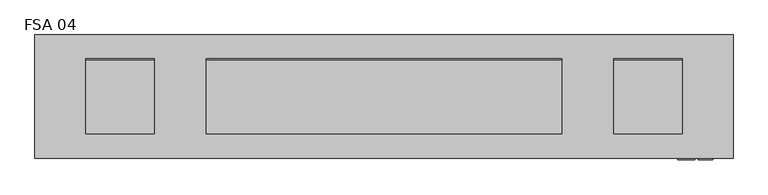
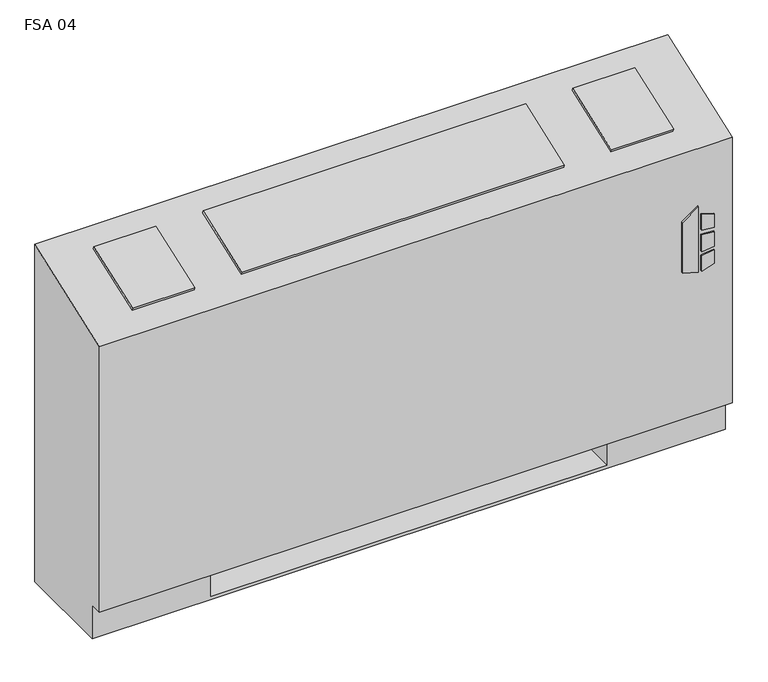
"""IFC4 building model written with IfcOpenShell, lengths in millimetres: proxy geometry, Vertical_Fan_Coil_Unit_-_FSA_-_IEC_-_4-Pipe_TS-FR_LH_2022 : FSA 04."""

import ifcopenshell
import ifcopenshell.guid

model = None  # the IFC model being written
_history = None  # IfcOwnerHistory: only IFC2X3 demands one
_inside = {}  # id of a spatial element -> (the spatial element, [elements in it])
_under = {}  # id of a project, library or spatial element -> (it, [spatial elements below it])
_declared = {}  # id of a project -> (the project, [libraries it declares])
_typed = {}  # id of a type object -> (the type object, [elements of that type])
_made_of = {}  # id of a material, layer set ... -> (it, [elements and type objects made of it])


def new_model(schema):
    """Start an empty IFC model of exactly this schema.

    Asked for "IFC4X3", IfcOpenShell would pick the latest addendum, in which some entities
    have other attributes; the version numbers below select the first issue.
    IFC2X3 requires an IfcOwnerHistory on every rooted entity: one is made here for all.
    """
    global model, _history
    if schema == "IFC4X3":
        model = ifcopenshell.file(schema_version=(4, 3, 0, 0))
    else:
        model = ifcopenshell.file(schema=schema)
    _inside.clear()
    _under.clear()
    _declared.clear()
    _typed.clear()
    _made_of.clear()
    _history = None
    if model.schema == "IFC2X3":
        org = make("IfcOrganization", Name="unknown")
        user = make(
            "IfcPersonAndOrganization",
            ThePerson=make("IfcPerson", FamilyName="unknown"),
            TheOrganization=org,
        )
        app = make(
            "IfcApplication",
            ApplicationDeveloper=org,
            Version="unknown",
            ApplicationFullName="unknown",
            ApplicationIdentifier="unknown",
        )
        _history = make(
            "IfcOwnerHistory",
            OwningUser=user,
            OwningApplication=app,
            ChangeAction="ADDED",
            CreationDate=0,
        )
    return model


def make(cls, **values):
    """One entity of the class cls with the attributes given. An attribute that is None is left unset."""
    return model.create_entity(
        cls, **{name: value for name, value in values.items() if value is not None}
    )


def rooted(cls, **values):
    """An entity with a GlobalId (a new one), such as an element, a storey or a relation."""
    return make(cls, GlobalId=ifcopenshell.guid.new(), OwnerHistory=_history, **values)


def si_unit(unit_type, name, prefix=None):
    """IfcSIUnit, for example si_unit("LENGTHUNIT", "METRE", prefix="MILLI")."""
    return make("IfcSIUnit", UnitType=unit_type, Prefix=prefix, Name=name)


def assignment(units):
    """IfcUnitAssignment: the units of a project."""
    return None if units is None else make("IfcUnitAssignment", Units=units)


def point(xyz):
    """IfcCartesianPoint."""
    return None if xyz is None else make("IfcCartesianPoint", Coordinates=xyz)


def direction(xyz):
    """IfcDirection."""
    return None if xyz is None else make("IfcDirection", DirectionRatios=xyz)


def frame(location, z_axis=None, x_axis=None):
    """IfcAxis2Placement3D, a coordinate frame: its origin and axes. An axis left out is left unset."""
    return make(
        "IfcAxis2Placement3D",
        Location=point(location),
        Axis=direction(z_axis),
        RefDirection=direction(x_axis),
    )


def frame_2d(location, x_axis=None):
    """IfcAxis2Placement2D, a coordinate frame in the plane: its origin and x axis."""
    return make(
        "IfcAxis2Placement2D", Location=point(location), RefDirection=direction(x_axis)
    )


def origin():
    """The frame at (0, 0, 0) with its axes left unset."""
    return frame((0.0, 0.0, 0.0))


def place(relative_to, where):
    """IfcLocalPlacement: puts the frame where relative to a parent placement (None: the world)."""
    return make(
        "IfcLocalPlacement", PlacementRelTo=relative_to, RelativePlacement=where
    )


def context(
    kind, dimensions, precision=None, world=None, true_north=None, identifier=None
):
    """IfcGeometricRepresentationContext, for example the 3D "Model" context."""
    return make(
        "IfcGeometricRepresentationContext",
        ContextIdentifier=identifier,
        ContextType=kind,
        CoordinateSpaceDimension=dimensions,
        Precision=precision,
        WorldCoordinateSystem=world,
        TrueNorth=true_north,
    )


def project(units=None, contexts=None):
    """IfcProject with its units and contexts."""
    return rooted(
        "IfcProject",
        Name="project",
        RepresentationContexts=contexts,
        UnitsInContext=assignment(units),
    )


def spatial(cls, under=None, at=None, **own):
    """A site, building, storey or space (cls), placed at a placement, below another one or the project."""
    s = rooted(cls, ObjectPlacement=at, **own)
    if under is not None:
        _under.setdefault(under.id(), (under, []))[1].append(s)
    return s


def polyline(points):
    """IfcPolyline through the points."""
    return make("IfcPolyline", Points=[point(p) for p in points])


def circle_curve(where, radius):
    """IfcCircle in the frame where."""
    return make("IfcCircle", Position=where, Radius=radius)


def trimmed(basis, trim1, trim2, sense, master):
    """IfcTrimmedCurve: the piece of a basis curve between two trims."""
    return make(
        "IfcTrimmedCurve",
        BasisCurve=basis,
        Trim1=trim1,
        Trim2=trim2,
        SenseAgreement=sense,
        MasterRepresentation=master,
    )


def segment(curve, same_sense, transition):
    """IfcCompositeCurveSegment."""
    return make(
        "IfcCompositeCurveSegment",
        Transition=transition,
        SameSense=same_sense,
        ParentCurve=curve,
    )


def composite_curve(segments, self_intersect=None):
    """IfcCompositeCurve: segments joined end to end."""
    return make("IfcCompositeCurve", Segments=segments, SelfIntersect=self_intersect)


def outline(outer, holes=None, kind="AREA"):
    """IfcArbitraryClosedProfileDef: a profile drawn as a closed curve; with holes, ...WithVoids."""
    if holes is None:
        return make("IfcArbitraryClosedProfileDef", ProfileType=kind, OuterCurve=outer)
    return make(
        "IfcArbitraryProfileDefWithVoids",
        ProfileType=kind,
        OuterCurve=outer,
        InnerCurves=holes,
    )


def extrude(swept, where, along, depth):
    """IfcExtrudedAreaSolid: the profile swept, set in the frame where, extruded along a direction by depth."""
    return make(
        "IfcExtrudedAreaSolid",
        SweptArea=swept,
        Position=where,
        ExtrudedDirection=direction(along),
        Depth=depth,
    )


def shape(context_of_items, identifier, shape_type, items):
    """IfcShapeRepresentation: the items that make up one representation, for example the "Body"."""
    return make(
        "IfcShapeRepresentation",
        ContextOfItems=context_of_items,
        RepresentationIdentifier=identifier,
        RepresentationType=shape_type,
        Items=items,
    )


def source(mapping_origin, context_of_items, identifier, shape_type, items):
    """IfcRepresentationMap: a shape defined once, which mapped items show again and again."""
    return make(
        "IfcRepresentationMap",
        MappingOrigin=mapping_origin,
        MappedRepresentation=shape(context_of_items, identifier, shape_type, items),
    )


def transform(
    local_origin,
    x_axis=None,
    y_axis=None,
    z_axis=None,
    scale=None,
    scale2=None,
    scale3=None,
    uniform=True,
):
    """IfcCartesianTransformationOperator3D, or its non-uniform kind. x_axis, y_axis, z_axis: its Axis1, 2, 3."""
    if uniform:
        return make(
            "IfcCartesianTransformationOperator3D",
            Axis1=direction(x_axis),
            Axis2=direction(y_axis),
            LocalOrigin=point(local_origin),
            Scale=scale,
            Axis3=direction(z_axis),
        )
    return make(
        "IfcCartesianTransformationOperator3DnonUniform",
        Axis1=direction(x_axis),
        Axis2=direction(y_axis),
        LocalOrigin=point(local_origin),
        Scale=scale,
        Axis3=direction(z_axis),
        Scale2=scale2,
        Scale3=scale3,
    )


def mapped(mapping_source, mapping_target):
    """IfcMappedItem: shows the shape of a source again, moved by a transform."""
    return make(
        "IfcMappedItem", MappingSource=mapping_source, MappingTarget=mapping_target
    )


def made_of(thing, what):
    """Note that an element or type object is made of a material, layer set ...; save() writes the relation."""
    if what is not None:
        _made_of.setdefault(what.id(), (what, []))[1].append(thing)
    return thing


def element(
    cls,
    number,
    at=None,
    inside=None,
    cuts=None,
    type_object=None,
    material=None,
    context=None,
    identifier="Body",
    shape_type=None,
    held_by="IfcProductDefinitionShape",
    body=None,
    shapes=None,
    **own,
):
    """One element of the class cls, such as IfcWall. Its Tag is "e" and its number.

    at: its placement. inside: the storey or other place that contains it. cuts: it is an
    opening in that element (IfcRelVoidsElement). A single representation is given by context,
    identifier, shape_type and body (its items); several are given by shapes. held_by: the class
    of the entity that holds the representations. save() writes the other relations.
    """
    e = rooted(cls, Tag="e%d" % number, ObjectPlacement=at, **own)
    if body is not None:
        shapes = [shape(context, identifier, shape_type, body)]
    if shapes is not None:
        e.Representation = make(held_by, Representations=shapes)
    if inside is not None:
        _inside.setdefault(inside.id(), (inside, []))[1].append(e)
    if cuts is not None:
        rooted(
            "IfcRelVoidsElement", RelatingBuildingElement=cuts, RelatedOpeningElement=e
        )
    if type_object is not None:
        _typed.setdefault(type_object.id(), (type_object, []))[1].append(e)
    return made_of(e, material)


def aggregate(whole, parts):
    """IfcRelAggregates: a whole, such as a stair, and the parts it consists of."""
    return rooted("IfcRelAggregates", RelatingObject=whole, RelatedObjects=parts)


def save(model, path):
    """Write the relations noted so far, then the file.

    IfcRelAggregates (storeys below a building ...), IfcRelContainedInSpatialStructure (elements
    in a storey), IfcRelDefinesByType, IfcRelAssociatesMaterial and IfcRelDeclares: one each for
    every whole, place, type object, material and project.
    """
    for whole, parts in _under.values():
        aggregate(whole, parts)
    for where, things in _inside.values():
        rooted(
            "IfcRelContainedInSpatialStructure",
            RelatedElements=things,
            RelatingStructure=where,
        )
    for kind, things in _typed.values():
        rooted("IfcRelDefinesByType", RelatedObjects=things, RelatingType=kind)
    for what, things in _made_of.values():
        rooted("IfcRelAssociatesMaterial", RelatedObjects=things, RelatingMaterial=what)
    for by, libraries in _declared.values():
        rooted("IfcRelDeclares", RelatingContext=by, RelatedDefinitions=libraries)
    model.write(path)


def plane_surface(at):
    """IfcPlane: the flat surface through the origin of the frame at, square to its z axis."""
    return make("IfcPlane", Position=at)


def revolved_surface(curve, axis_point, axis_direction):
    """IfcSurfaceOfRevolution: the curve turned about the line through axis_point along axis_direction."""
    return make(
        "IfcSurfaceOfRevolution",
        SweptCurve=make("IfcArbitraryOpenProfileDef", ProfileType="CURVE", Curve=curve),
        AxisPosition=make("IfcAxis1Placement", Location=point(axis_point), Axis=direction(axis_direction)),
    )


def advanced_brep(points, edges, surfaces, faces):
    """IfcAdvancedBrep: a solid bounded by faces that lie on surfaces and meet in shared edges.

    An edge is (start, end): straight between two places in points (the first is 0);
    or (start, end, curve); or (start, end, curve, False) where it runs against its curve.
    A face is (place in surfaces, loops), or (place, loops, False) where it looks against
    its surface's normal. A loop lists edges by number (the first is 1), with a minus sign
    where the edge is run from its end to its start. The first loop is the outer one.
    """
    corners = [point(p) for p in points]
    vertices = [make("IfcVertexPoint", VertexGeometry=c) for c in corners]
    made = []
    for start, end, *more in edges:
        made.append(
            make(
                "IfcEdgeCurve",
                EdgeStart=vertices[start],
                EdgeEnd=vertices[end],
                EdgeGeometry=more[0] if more else make("IfcPolyline", Points=[corners[start], corners[end]]),
                SameSense=more[1] if len(more) > 1 else True,
            )
        )
    hull = []
    for where, loops, *sense in faces:
        bounds = []
        for j, loop in enumerate(loops):
            ring = [make("IfcOrientedEdge", EdgeElement=made[abs(k) - 1], Orientation=k > 0) for k in loop]
            bounds.append(
                make(
                    "IfcFaceOuterBound" if j == 0 else "IfcFaceBound",
                    Bound=make("IfcEdgeLoop", EdgeList=ring),
                    Orientation=True,
                )
            )
        hull.append(make("IfcAdvancedFace", Bounds=bounds, FaceSurface=surfaces[where], SameSense=sense[0] if sense else True))
    return make("IfcAdvancedBrep", Outer=make("IfcClosedShell", CfsFaces=hull))


def fsa_04_c0b1d56f(model_context):
    return source(origin(), model_context, "Body", "SolidModel", [
        extrude(outline(polyline([(391.6086829, 696.9868862), (381.6606126, 729.1602728), (523.831537, 729.1602728), (500.8095309, 696.9868862), (391.6086829, 696.9868862)])), frame((0.0, 12.7, 0.0), z_axis=(0.0, 1.0, 0.0), x_axis=(0.0, 0.0, 1.0)), (0.0, 0.0, 1.0), 3.175),
        extrude(outline(polyline([(470.6079683, 735.9186058), (467.4055757, 762.0), (496.6344168, 762.0), (504.6988318, 735.9186058), (470.6079683, 735.9186058)])), frame((0.0, 12.7, 0.0), z_axis=(0.0, 1.0, 0.0), x_axis=(0.0, 0.0, 1.0)), (0.0, 0.0, 1.0), 3.175),
        extrude(outline(polyline([(418.7444414, 762.0), (415.0789404, 735.9186058), (381.6606126, 735.9186058), (390.2948498, 762.0), (418.7444414, 762.0)])), frame((0.0, 12.7, 0.0), z_axis=(0.0, 1.0, 0.0), x_axis=(0.0, 0.0, 1.0)), (0.0, 0.0, 1.0), 3.175),
        extrude(outline(polyline([(458.0596028, 762.0), (460.3414292, 735.9186058), (424.4038806, 735.9186058), (427.1451456, 762.0), (458.0596028, 762.0)])), frame((0.0, 12.7, 0.0), z_axis=(0.0, 1.0, 0.0), x_axis=(0.0, 0.0, 1.0)), (0.0, 0.0, 1.0), 3.175),
        extrude(outline(polyline([(679.45, 223.266), (679.45, 81.534), (558.8, 81.534), (558.8, 223.266), (679.45, 223.266)])), frame((0.0, 0.0, 327.025), z_axis=(0.0, 0.0, 1.0), x_axis=(1.0, 0.0, 0.0)), (0.0, 0.0, 1.0), 260.35),
        extrude(outline(composite_curve([segment(trimmed(circle_curve(frame_2d((-317.5, 130.175)), 9.525), [point((-327.025, 130.175))], [point((-307.975, 130.175))], False, "CARTESIAN"), True, "CONTINUOUS"), segment(trimmed(circle_curve(frame_2d((-317.5, 130.175)), 9.525), [point((-307.975, 130.175))], [point((-327.025, 130.175))], False, "CARTESIAN"), True, "CONTINUOUS")], self_intersect=False)), frame((0.0, 0.0, 101.6), z_axis=(0.0, 0.0, 1.0), x_axis=(1.0, 0.0, 0.0)), (0.0, 0.0, 1.0), 25.4),
        extrude(outline(polyline([(-419.1, 63.5), (-419.1, 196.85), (-254.0, 196.85), (-254.0, 63.5), (-419.1, 63.5)])), frame((0.0, 0.0, 127.0), z_axis=(0.0, 0.0, 1.0), x_axis=(1.0, 0.0, 0.0)), (0.0, 0.0, 1.0), 50.8),
        extrude(outline(polyline([(0.0, -146.0500001), (0.0, 0.0), (127.0, 0.0), (127.0, -146.0500001), (0.0, -146.0500001)])), frame((-401.193, 200.4217127, 714.3418685), z_axis=(0.0, -0.3396444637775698, 0.9405538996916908), x_axis=(1.0, 0.0, 0.0)), (0.0, 0.0, 1.0), 6.35),
        extrude(outline(polyline([(0.0, -146.0500001), (0.0, 0.0), (660.4, 0.0), (660.4, -146.0500001), (0.0, -146.0500001)])), frame((482.6, 63.0538156, 664.7367945), z_axis=(0.0, -0.33964446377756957, 0.9405538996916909), x_axis=(-1.0, 0.0, 0.0)), (0.0, 0.0, 1.0), 6.35),
        extrude(outline(polyline([(0.0, -146.0500001), (0.0, 0.0), (127.0, 0.0), (127.0, -146.0500001), (0.0, -146.0500001)])), frame((705.993, 63.0538156, 664.7367945), z_axis=(0.0, -0.3396444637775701, 0.9405538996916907), x_axis=(-1.0, 0.0, 0.0)), (0.0, 0.0, 1.0), 6.35),
        extrude(outline(composite_curve([segment(trimmed(circle_curve(frame_2d((117.475, 472.44)), 7.9375), [point((117.475, 480.3775))], [point((117.475, 464.5025))], False, "CARTESIAN"), True, "CONTINUOUS"), segment(trimmed(circle_curve(frame_2d((117.475, 472.44)), 7.9375), [point((117.475, 464.5025))], [point((117.475, 480.3775))], False, "CARTESIAN"), True, "CONTINUOUS")], self_intersect=False)), frame((-304.8, 0.0, 0.0), z_axis=(1.0, 0.0, 0.0), x_axis=(0.0, 1.0, 0.0)), (0.0, 0.0, 1.0), 50.8),
        extrude(outline(composite_curve([segment(trimmed(circle_curve(frame_2d((164.0586, 445.897)), 7.9375), [point((164.0586, 453.8345))], [point((164.0586, 437.9595))], False, "CARTESIAN"), True, "CONTINUOUS"), segment(trimmed(circle_curve(frame_2d((164.0586, 445.897)), 7.9375), [point((164.0586, 437.9595))], [point((164.0586, 453.8345))], False, "CARTESIAN"), True, "CONTINUOUS")], self_intersect=False)), frame((-304.8, 0.0, 0.0), z_axis=(1.0, 0.0, 0.0), x_axis=(0.0, 1.0, 0.0)), (0.0, 0.0, 1.0), 50.8),
        extrude(outline(composite_curve([segment(trimmed(circle_curve(frame_2d((130.175, 554.99)), 7.9502), [point((130.175, 562.9402))], [point((130.175, 547.0398))], False, "CARTESIAN"), True, "CONTINUOUS"), segment(trimmed(circle_curve(frame_2d((130.175, 554.99)), 7.9502), [point((130.175, 547.0398))], [point((130.175, 562.9402))], False, "CARTESIAN"), True, "CONTINUOUS")], self_intersect=False)), frame((-304.8, 0.0, 0.0), z_axis=(1.0, 0.0, 0.0), x_axis=(0.0, 1.0, 0.0)), (0.0, 0.0, 1.0), 50.8),
        extrude(outline(composite_curve([segment(trimmed(circle_curve(frame_2d((53.975, 416.56)), 7.9502), [point((53.975, 424.5102))], [point((53.975, 408.6098))], False, "CARTESIAN"), True, "CONTINUOUS"), segment(trimmed(circle_curve(frame_2d((53.975, 416.56)), 7.9502), [point((53.975, 408.6098))], [point((53.975, 424.5102))], False, "CARTESIAN"), True, "CONTINUOUS")], self_intersect=False)), frame((-304.8, 0.0, 0.0), z_axis=(1.0, 0.0, 0.0), x_axis=(0.0, 1.0, 0.0)), (0.0, 0.0, 1.0), 50.8),
        advanced_brep(
        [(-495.3, 244.475, 0.0), (800.1, 244.475, 0.0), (800.1, 41.275, 0.0), (-495.3, 41.275, 0.0), (-495.3, 244.475, 730.25), (800.1, 244.475, 730.25), (558.8, 244.475, 73.025), (787.4, 244.475, 73.025), (787.4, 244.475, 654.05), (558.8, 244.475, 654.05), (558.8, 244.475, 414.8650565), (587.375, 244.475, 414.8650565), (587.375, 244.475, 385.2349435), (558.8, 244.475, 385.2349435), (558.8, 244.475, 287.3375), (587.375, 244.475, 287.3375), (587.375, 244.475, 258.7625), (558.8, 244.475, 258.7625), (558.8, 244.475, 141.2875), (587.375, 244.475, 141.2875), (587.375, 244.475, 112.7125), (558.8, 244.475, 112.7125), (-254.0, 244.475, 654.05), (-482.6, 244.475, 654.05), (-482.6, 244.475, 73.025), (-254.0, 244.475, 73.025), (-254.0, 244.475, 112.7125), (-282.575, 244.475, 112.7125), (-282.575, 244.475, 141.2875), (-254.0, 244.475, 141.2875), (-254.0, 244.475, 258.7625), (-282.575, 244.475, 258.7625), (-282.575, 244.475, 287.3375), (-254.0, 244.475, 287.3375), (-254.0, 244.475, 385.2349435), (-282.575, 244.475, 385.2349435), (-282.575, 244.475, 414.8650565), (-254.0, 244.475, 414.8650565), (577.0626, 244.475, 127.0), (565.9374, 244.475, 127.0), (577.0626, 244.475, 400.05), (565.9374, 244.475, 400.05), (577.0626, 244.475, 273.05), (565.9374, 244.475, 273.05), (-261.1374, 244.475, 127.0), (-272.2626, 244.475, 127.0), (-261.1374, 244.475, 273.05), (-272.2626, 244.475, 273.05), (-261.1374, 244.475, 400.05), (-272.2626, 244.475, 400.05), (-495.3, 41.275, 73.025), (-495.3, 15.875, 73.025), (-495.3, 15.875, 647.7), (800.1, 15.875, 73.025), (800.1, 15.875, 647.7), (800.1, 41.275, 73.025), (-254.0, 41.275, 73.025), (-254.0, 225.425, 73.025), (558.8, 225.425, 73.025), (558.8, 41.275, 73.025), (558.8, 41.275, 6.35), (-254.0, 41.275, 6.35), (558.8, 41.275, 654.05), (787.4, 41.275, 654.05), (787.4, 41.275, 73.025), (558.8, 41.275, 73.025), (-254.0, 41.275, 654.05), (-254.0, 41.275, 73.025), (-482.6, 41.275, 73.025), (-482.6, 41.275, 654.05), (558.8, 225.425, 73.025), (558.8, 238.125, 112.7125), (558.8, 238.125, 141.2875), (558.8, 238.125, 258.7625), (558.8, 238.125, 287.3375), (558.8, 238.125, 385.2349435), (558.8, 238.125, 414.8650565), (-254.0, 225.425, 73.025), (-254.0, 238.125, 414.8650565), (-254.0, 238.125, 385.2349435), (-254.0, 238.125, 287.3375), (-254.0, 238.125, 258.7625), (-254.0, 238.125, 141.2875), (-254.0, 238.125, 112.7125), (-254.0, 225.425, 6.35), (558.8, 225.425, 6.35), (587.375, 238.125, 112.7125), (587.375, 238.125, 141.2875), (565.9374, 238.125, 127.0), (577.0626, 238.125, 127.0), (587.375, 238.125, 258.7625), (587.375, 238.125, 287.3375), (565.9374, 238.125, 273.05), (577.0626, 238.125, 273.05), (587.375, 238.125, 385.2349435), (587.375, 238.125, 414.8650565), (565.9374, 238.125, 400.05), (577.0626, 238.125, 400.05), (-282.575, 238.125, 141.2875), (-282.575, 238.125, 112.7125), (-272.2626, 238.125, 127.0), (-261.1374, 238.125, 127.0), (-282.575, 238.125, 287.3375), (-282.575, 238.125, 258.7625), (-272.2626, 238.125, 273.05), (-261.1374, 238.125, 273.05), (-282.575, 238.125, 414.8650565), (-282.575, 238.125, 385.2349435), (-272.2626, 238.125, 400.05), (-261.1374, 238.125, 400.05)],
        [
            (0, 1),
            (1, 2),
            (2, 3),
            (3, 0),
            (0, 4),
            (4, 5),
            (5, 1),
            (6, 7),
            (7, 8),
            (8, 9),
            (9, 10),
            (10, 11),
            (11, 12),
            (12, 13),
            (13, 14),
            (14, 15),
            (15, 16),
            (16, 17),
            (17, 18),
            (18, 19),
            (19, 20),
            (20, 21),
            (21, 6),
            (22, 23),
            (23, 24),
            (24, 25),
            (25, 26),
            (26, 27),
            (27, 28),
            (28, 29),
            (29, 30),
            (30, 31),
            (31, 32),
            (32, 33),
            (33, 34),
            (34, 35),
            (35, 36),
            (36, 37),
            (37, 22),
            (38, 39, circle_curve(frame((571.5, 244.475, 127.0), z_axis=(0.0, -1.0, 0.0), x_axis=(-1.0, 0.0, 0.0)), 5.5626)),
            (39, 38, circle_curve(frame((571.5, 244.475, 127.0), z_axis=(0.0, -1.0, 0.0), x_axis=(-1.0, 0.0, 0.0)), 5.5626)),
            (40, 41, circle_curve(frame((571.5, 244.475, 400.05), z_axis=(0.0, -1.0, 0.0), x_axis=(-1.0, 0.0, 0.0)), 5.5626)),
            (41, 40, circle_curve(frame((571.5, 244.475, 400.05), z_axis=(0.0, -1.0, 0.0), x_axis=(-1.0, 0.0, 0.0)), 5.5626)),
            (42, 43, circle_curve(frame((571.5, 244.475, 273.05), z_axis=(0.0, -1.0, 0.0), x_axis=(-1.0, 0.0, 0.0)), 5.5626)),
            (43, 42, circle_curve(frame((571.5, 244.475, 273.05), z_axis=(0.0, -1.0, 0.0), x_axis=(-1.0, 0.0, 0.0)), 5.5626)),
            (44, 45, circle_curve(frame((-266.7, 244.475, 127.0), z_axis=(0.0, -1.0, 0.0), x_axis=(-1.0, 0.0, 0.0)), 5.5626)),
            (45, 44, circle_curve(frame((-266.7, 244.475, 127.0), z_axis=(0.0, -1.0, 0.0), x_axis=(-1.0, 0.0, 0.0)), 5.5626)),
            (46, 47, circle_curve(frame((-266.7, 244.475, 273.05), z_axis=(0.0, -1.0, 0.0), x_axis=(-1.0, 0.0, 0.0)), 5.5626)),
            (47, 46, circle_curve(frame((-266.7, 244.475, 273.05), z_axis=(0.0, -1.0, 0.0), x_axis=(-1.0, 0.0, 0.0)), 5.5626)),
            (48, 49, circle_curve(frame((-266.7, 244.475, 400.05), z_axis=(0.0, -1.0, 0.0), x_axis=(-1.0, 0.0, 0.0)), 5.5626)),
            (49, 48, circle_curve(frame((-266.7, 244.475, 400.05), z_axis=(0.0, -1.0, 0.0), x_axis=(-1.0, 0.0, 0.0)), 5.5626)),
            (3, 50),
            (50, 51),
            (51, 52),
            (52, 4),
            (51, 53),
            (53, 54),
            (54, 52),
            (5, 54),
            (53, 55),
            (55, 2),
            (50, 56),
            (56, 57),
            (57, 58),
            (58, 59),
            (59, 55),
            (59, 60),
            (60, 61),
            (61, 56),
            (62, 63),
            (63, 64),
            (64, 65),
            (65, 62),
            (66, 67),
            (67, 68),
            (68, 69),
            (69, 66),
            (65, 70),
            (70, 6),
            (21, 71),
            (71, 72),
            (72, 18),
            (17, 73),
            (73, 74),
            (74, 14),
            (13, 75),
            (75, 76),
            (76, 10),
            (9, 62),
            (64, 7),
            (63, 8),
            (69, 23),
            (22, 66),
            (68, 24),
            (67, 77),
            (77, 25),
            (37, 78),
            (78, 79),
            (79, 34),
            (33, 80),
            (80, 81),
            (81, 30),
            (29, 82),
            (82, 83),
            (83, 26),
            (57, 84),
            (84, 85),
            (85, 58),
            (85, 60),
            (84, 61),
            (71, 86),
            (86, 87),
            (87, 72),
            (88, 89, circle_curve(frame((571.5, 238.125, 127.0), z_axis=(0.0, 1.0, 0.0), x_axis=(-1.0, 0.0, 0.0)), 5.5626)),
            (89, 88, circle_curve(frame((571.5, 238.125, 127.0), z_axis=(0.0, 1.0, 0.0), x_axis=(-1.0, 0.0, 0.0)), 5.5626)),
            (73, 90),
            (90, 91),
            (91, 74),
            (92, 93, circle_curve(frame((571.5, 238.125, 273.05), z_axis=(0.0, 1.0, 0.0), x_axis=(-1.0, 0.0, 0.0)), 5.5626)),
            (93, 92, circle_curve(frame((571.5, 238.125, 273.05), z_axis=(0.0, 1.0, 0.0), x_axis=(-1.0, 0.0, 0.0)), 5.5626)),
            (75, 94),
            (94, 95),
            (95, 76),
            (96, 97, circle_curve(frame((571.5, 238.125, 400.05), z_axis=(0.0, 1.0, 0.0), x_axis=(-1.0, 0.0, 0.0)), 5.5626)),
            (97, 96, circle_curve(frame((571.5, 238.125, 400.05), z_axis=(0.0, 1.0, 0.0), x_axis=(-1.0, 0.0, 0.0)), 5.5626)),
            (98, 99),
            (99, 83),
            (82, 98),
            (100, 101, circle_curve(frame((-266.7, 238.125, 127.0), z_axis=(0.0, 1.0, 0.0), x_axis=(-1.0, 0.0, 0.0)), 5.5626)),
            (101, 100, circle_curve(frame((-266.7, 238.125, 127.0), z_axis=(0.0, 1.0, 0.0), x_axis=(-1.0, 0.0, 0.0)), 5.5626)),
            (102, 103),
            (103, 81),
            (80, 102),
            (104, 105, circle_curve(frame((-266.7, 238.125, 273.05), z_axis=(0.0, 1.0, 0.0), x_axis=(-1.0, 0.0, 0.0)), 5.5626)),
            (105, 104, circle_curve(frame((-266.7, 238.125, 273.05), z_axis=(0.0, 1.0, 0.0), x_axis=(-1.0, 0.0, 0.0)), 5.5626)),
            (106, 107),
            (107, 79),
            (78, 106),
            (108, 109, circle_curve(frame((-266.7, 238.125, 400.05), z_axis=(0.0, 1.0, 0.0), x_axis=(-1.0, 0.0, 0.0)), 5.5626)),
            (109, 108, circle_curve(frame((-266.7, 238.125, 400.05), z_axis=(0.0, 1.0, 0.0), x_axis=(-1.0, 0.0, 0.0)), 5.5626)),
            (87, 19),
            (86, 20),
            (91, 15),
            (90, 16),
            (95, 11),
            (94, 12),
            (28, 98),
            (99, 27),
            (32, 102),
            (103, 31),
            (36, 106),
            (107, 35),
            (88, 39),
            (38, 89),
            (96, 41),
            (40, 97),
            (92, 43),
            (42, 93),
            (100, 45),
            (44, 101),
            (104, 47),
            (46, 105),
            (108, 49),
            (48, 109),
        ],
        [
            plane_surface(frame((-495.3, 244.475, 0.0), z_axis=(0.0, 0.0, -1.0), x_axis=(1.0, 0.0, 0.0))),
            plane_surface(frame((800.1, 244.475, 730.25), z_axis=(0.0, 1.0, 0.0), x_axis=(0.0, 0.0, -1.0))),
            plane_surface(frame((-495.3, 244.475, 730.25), z_axis=(-1.0, 0.0, 0.0), x_axis=(0.0, 0.0, -1.0))),
            plane_surface(frame((-495.3, 15.875, 730.25), z_axis=(0.0, -1.0, 0.0), x_axis=(0.0, 0.0, -1.0))),
            plane_surface(frame((800.1, 15.875, 730.25), z_axis=(1.0, 0.0, 0.0), x_axis=(0.0, 0.0, -1.0))),
            plane_surface(frame((-495.3, 15.875, 73.025), z_axis=(0.0, 0.0, -1.0), x_axis=(1.0, 0.0, 0.0))),
            plane_surface(frame((-495.3, 41.275, 73.025), z_axis=(0.0, -1.0, 0.0), x_axis=(1.0, 0.0, 0.0))),
            plane_surface(frame((558.8, 41.275, 654.05), z_axis=(0.0, 1.0, 0.0), x_axis=(0.0, 0.0, -1.0))),
            plane_surface(frame((558.8, 41.275, 654.05), z_axis=(1.0, 0.0, 0.0), x_axis=(0.0, 1.0, 0.0))),
            plane_surface(frame((558.8, 41.275, 73.025), z_axis=(0.0, 0.0, 1.0), x_axis=(0.0, 1.0, 0.0))),
            plane_surface(frame((787.4, 41.275, 73.025), z_axis=(-1.0, 0.0, 0.0), x_axis=(0.0, 1.0, 0.0))),
            plane_surface(frame((787.4, 41.275, 654.05), z_axis=(0.0, 0.0, -1.0), x_axis=(0.0, 1.0, 0.0))),
            plane_surface(frame((-254.0, 41.275, 654.05), z_axis=(0.0, 0.0, -1.0), x_axis=(0.0, 1.0, 0.0))),
            plane_surface(frame((-482.6, 41.275, 654.05), z_axis=(1.0, 0.0, 0.0), x_axis=(0.0, 1.0, 0.0))),
            plane_surface(frame((-482.6, 41.275, 73.025), z_axis=(0.0, 0.0, 1.0), x_axis=(0.0, 1.0, 0.0))),
            plane_surface(frame((-254.0, 41.275, 73.025), z_axis=(-1.0, 0.0, 0.0), x_axis=(0.0, 1.0, 0.0))),
            plane_surface(frame((558.8, 225.425, 73.025), z_axis=(0.0, -1.0, 0.0), x_axis=(0.0, 0.0, -1.0))),
            plane_surface(frame((558.8, 225.425, 73.025), z_axis=(-1.0, 0.0, 0.0), x_axis=(0.0, -1.0, 0.0))),
            plane_surface(frame((558.8, 225.425, 6.35), z_axis=(0.0, 0.0, 1.0), x_axis=(0.0, -1.0, 0.0))),
            plane_surface(frame((-254.0, 225.425, 6.35), z_axis=(1.0, 0.0, 0.0), x_axis=(0.0, -1.0, 0.0))),
            plane_surface(frame((587.375, 238.125, 141.2875), z_axis=(0.0, -1.0, 0.0), x_axis=(-1.0, 0.0, 0.0))),
            plane_surface(frame((558.8, 244.475, 141.2875), z_axis=(0.0, 0.0, 1.0), x_axis=(0.0, -1.0, 0.0))),
            plane_surface(frame((587.375, 244.475, 141.2875), z_axis=(1.0, 0.0, 0.0), x_axis=(0.0, -1.0, 0.0))),
            plane_surface(frame((587.375, 244.475, 112.7125), z_axis=(0.0, 0.0, -1.0), x_axis=(0.0, -1.0, 0.0))),
            plane_surface(frame((558.8, 244.475, 287.3375), z_axis=(0.0, 0.0, 1.0), x_axis=(0.0, -1.0, 0.0))),
            plane_surface(frame((587.375, 244.475, 287.3375), z_axis=(1.0, 0.0, 0.0), x_axis=(0.0, -1.0, 0.0))),
            plane_surface(frame((587.375, 244.475, 258.7625), z_axis=(0.0, 0.0, -1.0), x_axis=(0.0, -1.0, 0.0))),
            plane_surface(frame((558.8, 244.475, 414.8650565), z_axis=(0.0, 0.0, 1.0), x_axis=(0.0, -1.0, 0.0))),
            plane_surface(frame((587.375, 244.475, 414.8650565), z_axis=(1.0, 0.0, 0.0), x_axis=(0.0, -1.0, 0.0))),
            plane_surface(frame((587.375, 244.475, 385.2349435), z_axis=(0.0, 0.0, -1.0), x_axis=(0.0, -1.0, 0.0))),
            plane_surface(frame((-282.575, 244.475, 141.2875), z_axis=(0.0, 0.0, 1.0), x_axis=(0.0, -1.0, 0.0))),
            plane_surface(frame((-254.0, 244.475, 112.7125), z_axis=(0.0, 0.0, -1.0), x_axis=(0.0, -1.0, 0.0))),
            plane_surface(frame((-282.575, 244.475, 112.7125), z_axis=(-1.0, 0.0, 0.0), x_axis=(0.0, -1.0, 0.0))),
            plane_surface(frame((-282.575, 244.475, 287.3375), z_axis=(0.0, 0.0, 1.0), x_axis=(0.0, -1.0, 0.0))),
            plane_surface(frame((-254.0, 244.475, 258.7625), z_axis=(0.0, 0.0, -1.0), x_axis=(0.0, -1.0, 0.0))),
            plane_surface(frame((-282.575, 244.475, 258.7625), z_axis=(-1.0, 0.0, 0.0), x_axis=(0.0, -1.0, 0.0))),
            plane_surface(frame((-282.575, 244.475, 414.8650565), z_axis=(0.0, 0.0, 1.0), x_axis=(0.0, -1.0, 0.0))),
            plane_surface(frame((-254.0, 244.475, 385.2349435), z_axis=(0.0, 0.0, -1.0), x_axis=(0.0, -1.0, 0.0))),
            plane_surface(frame((-282.575, 244.475, 385.2349435), z_axis=(-1.0, 0.0, 0.0), x_axis=(0.0, -1.0, 0.0))),
            revolved_surface(polyline([(565.9374, 238.125, 127.0), (565.9374, 244.475, 127.0)]), (571.5, 244.475, 127.0), (0.0, -1.0, 0.0)),
            revolved_surface(polyline([(565.9374, 238.125, 400.05), (565.9374, 244.475, 400.05)]), (571.5, 244.475, 400.05), (0.0, -1.0, 0.0)),
            revolved_surface(polyline([(565.9374, 238.125, 273.05), (565.9374, 244.475, 273.05)]), (571.5, 244.475, 273.05), (0.0, -1.0, 0.0)),
            revolved_surface(polyline([(-272.26259999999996, 238.125, 127.0), (-272.26259999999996, 244.475, 127.0)]), (-266.7, 244.475, 127.0), (0.0, -1.0, 0.0)),
            revolved_surface(polyline([(-272.26259999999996, 238.125, 273.05), (-272.26259999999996, 244.475, 273.05)]), (-266.7, 244.475, 273.05), (0.0, -1.0, 0.0)),
            revolved_surface(polyline([(-272.26259999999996, 238.125, 400.05), (-272.26259999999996, 244.475, 400.05)]), (-266.7, 244.475, 400.05), (0.0, -1.0, 0.0)),
            plane_surface(frame((-495.3, 244.475, 730.25), z_axis=(0.0, -0.33964446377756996, 0.9405538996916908), x_axis=(1.0, 0.0, 0.0))),
        ],
        [
            (0, [[1, 2, 3, 4]]),
            (1, [[-1, 5, 6, 7], [8, 9, 10, 11, 12, 13, 14, 15, 16, 17, 18, 19, 20, 21, 22, 23], [24, 25, 26, 27, 28, 29, 30, 31, 32, 33, 34, 35, 36, 37, 38, 39], [40, 41], [42, 43], [44, 45], [46, 47], [48, 49], [50, 51]]),
            (2, [[-5, -4, 52, 53, 54, 55]]),
            (3, [[56, 57, 58, -54]]),
            (4, [[-7, 59, -57, 60, 61, -2]]),
            (5, [[-53, 62, 63, 64, 65, 66, -60, -56]]),
            (6, [[-3, -61, -66, 67, 68, 69, -62, -52]]),
            (7, [[70, 71, 72, 73]]),
            (7, [[74, 75, 76, 77]]),
            (8, [[-73, 78, 79, -23, 80, 81, 82, -19, 83, 84, 85, -15, 86, 87, 88, -11, 89]]),
            (9, [[-72, 90, -8, -79, -78]]),
            (10, [[-71, 91, -9, -90]]),
            (11, [[-70, -89, -10, -91]]),
            (12, [[-77, 92, -24, 93]]),
            (13, [[-76, 94, -25, -92]]),
            (14, [[-75, 95, 96, -26, -94]]),
            (15, [[-74, -93, -39, 97, 98, 99, -35, 100, 101, 102, -31, 103, 104, 105, -27, -96, -95]]),
            (16, [[-64, 106, 107, 108]]),
            (17, [[-108, 109, -67, -65]]),
            (18, [[-107, 110, -68, -109]]),
            (19, [[-106, -63, -69, -110]]),
            (20, [[111, 112, 113, -81], [114, 115]]),
            (20, [[116, 117, 118, -84], [119, 120]]),
            (20, [[121, 122, 123, -87], [124, 125]]),
            (20, [[126, 127, -104, 128], [129, 130]]),
            (20, [[131, 132, -101, 133], [134, 135]]),
            (20, [[136, 137, -98, 138], [139, 140]]),
            (21, [[-113, 141, -20, -82]]),
            (22, [[-112, 142, -21, -141]]),
            (23, [[-111, -80, -22, -142]]),
            (24, [[-118, 143, -16, -85]]),
            (25, [[-117, 144, -17, -143]]),
            (26, [[-116, -83, -18, -144]]),
            (27, [[-123, 145, -12, -88]]),
            (28, [[-122, 146, -13, -145]]),
            (29, [[-121, -86, -14, -146]]),
            (30, [[-128, -103, -30, 147]]),
            (31, [[-127, 148, -28, -105]]),
            (32, [[-126, -147, -29, -148]]),
            (33, [[-133, -100, -34, 149]]),
            (34, [[-132, 150, -32, -102]]),
            (35, [[-131, -149, -33, -150]]),
            (36, [[-138, -97, -38, 151]]),
            (37, [[-137, 152, -36, -99]]),
            (38, [[-136, -151, -37, -152]]),
            (39, [[153, -40, 154, -114]]),
            (39, [[-153, -115, -154, -41]]),
            (40, [[155, -42, 156, -124]]),
            (40, [[-155, -125, -156, -43]]),
            (41, [[157, -44, 158, -119]]),
            (41, [[-157, -120, -158, -45]]),
            (42, [[159, -46, 160, -129]]),
            (42, [[-159, -130, -160, -47]]),
            (43, [[161, -48, 162, -134]]),
            (43, [[-161, -135, -162, -49]]),
            (44, [[163, -50, 164, -139]]),
            (44, [[-163, -140, -164, -51]]),
            (45, [[-6, -55, -58, -59]]),
        ],
    ),
    ])


if __name__ == "__main__":
    model = new_model("IFC4")
    model_context = context("Model", 3, world=origin())
    ifc_project = project(units=[si_unit("LENGTHUNIT", "METRE", prefix="MILLI")], contexts=[model_context])
    site = spatial("IfcSite", under=ifc_project)
    building = spatial("IfcBuilding", under=site)
    placement = place(None, origin())
    fsa_04_shape = fsa_04_c0b1d56f(model_context)
    element("IfcBuildingElementProxy", 1, Name="Vertical_Fan_Coil_Unit_-_FSA_-_IEC_-_4-Pipe_TS-FR_LH_2022 : FSA 04", ObjectType="Vertical_Fan_Coil_Unit_-_FSA_-_IEC_-_4-Pipe_TS-FR_LH_2022 : FSA 04", at=placement, inside=building, context=model_context, shape_type="MappedRepresentation", body=[
        mapped(fsa_04_shape, transform((0.0, 0.0, 0.0), x_axis=(1.0, 0.0, 0.0), y_axis=(0.0, 1.0, 0.0), z_axis=(0.0, 0.0, 1.0))),
    ])
    save(model, "model.ifc")
